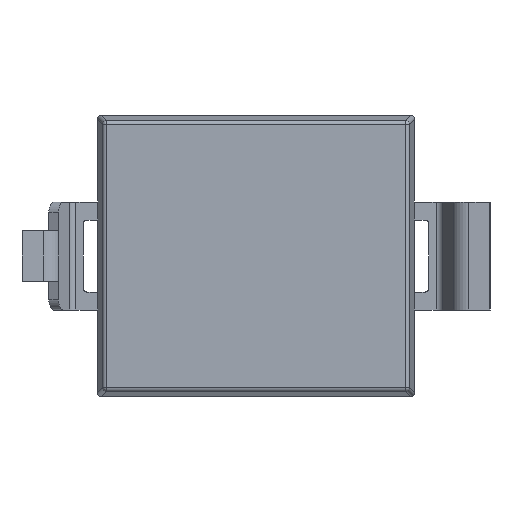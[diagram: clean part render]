
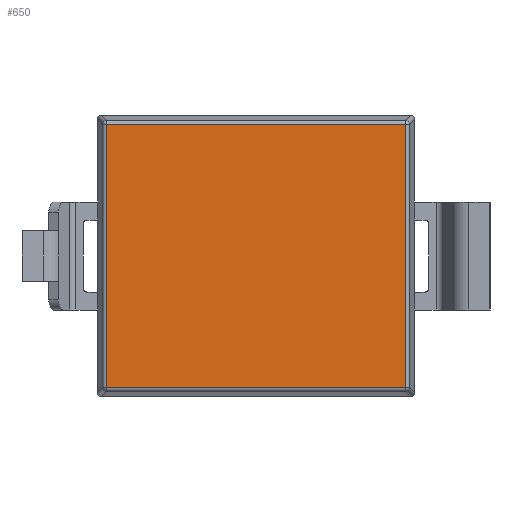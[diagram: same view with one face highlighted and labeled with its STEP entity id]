
A CAD part, front view. The second image highlights one B-rep face of the part: STEP entity #650.
In plain terms, the highlighted planar face has unit normal (0, -1, 0).
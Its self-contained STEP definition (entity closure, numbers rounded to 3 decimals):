
#121 = PLANE ( 'NONE',  #826 ) ;
#129 = DIRECTION ( 'NONE',  ( 0., 0., -1. ) ) ;
#245 = CARTESIAN_POINT ( 'NONE',  ( -2.08, 0.05, -1.83 ) ) ;
#300 = VERTEX_POINT ( 'NONE', #3200 ) ;
#397 = VECTOR ( 'NONE', #1256, 1000. ) ;
#414 = DIRECTION ( 'NONE',  ( 0., 1., 0. ) ) ;
#450 = EDGE_CURVE ( 'NONE', #1911, #2152, #2782, .T. ) ;
#459 = DIRECTION ( 'NONE',  ( 1., 0., 0. ) ) ;
#571 = EDGE_LOOP ( 'NONE', ( #1691, #2917, #1906, #2699 ) ) ;
#650 = ADVANCED_FACE ( 'NONE', ( #1565 ), #121, .F. ) ;
#652 = VECTOR ( 'NONE', #459, 1000. ) ;
#826 = AXIS2_PLACEMENT_3D ( 'NONE', #1194, #414, #1941 ) ;
#994 = VECTOR ( 'NONE', #1547, 1000. ) ;
#1019 = CARTESIAN_POINT ( 'NONE',  ( 2.122, 0.05, -1.83 ) ) ;
#1118 = LINE ( 'NONE', #1155, #2900 ) ;
#1155 = CARTESIAN_POINT ( 'NONE',  ( -2.08, 0.05, -1.872 ) ) ;
#1194 = CARTESIAN_POINT ( 'NONE',  ( 0., 0.05, 0. ) ) ;
#1256 = DIRECTION ( 'NONE',  ( 0., 0., 1. ) ) ;
#1274 = EDGE_CURVE ( 'NONE', #300, #1911, #3218, .T. ) ;
#1403 = VERTEX_POINT ( 'NONE', #245 ) ;
#1547 = DIRECTION ( 'NONE',  ( -1., 0., 0. ) ) ;
#1565 = FACE_OUTER_BOUND ( 'NONE', #571, .T. ) ;
#1627 = CARTESIAN_POINT ( 'NONE',  ( -2.08, 0.05, 1.83 ) ) ;
#1691 = ORIENTED_EDGE ( 'NONE', *, *, #1274, .T. ) ;
#1816 = EDGE_CURVE ( 'NONE', #1403, #300, #2538, .T. ) ;
#1906 = ORIENTED_EDGE ( 'NONE', *, *, #2690, .T. ) ;
#1911 = VERTEX_POINT ( 'NONE', #2807 ) ;
#1941 = DIRECTION ( 'NONE',  ( 0., 0., 1. ) ) ;
#2152 = VERTEX_POINT ( 'NONE', #1627 ) ;
#2261 = CARTESIAN_POINT ( 'NONE',  ( 2.08, 0.05, 1.872 ) ) ;
#2515 = CARTESIAN_POINT ( 'NONE',  ( -2.122, 0.05, 1.83 ) ) ;
#2538 = LINE ( 'NONE', #1019, #652 ) ;
#2690 = EDGE_CURVE ( 'NONE', #2152, #1403, #1118, .T. ) ;
#2699 = ORIENTED_EDGE ( 'NONE', *, *, #1816, .T. ) ;
#2782 = LINE ( 'NONE', #2515, #994 ) ;
#2807 = CARTESIAN_POINT ( 'NONE',  ( 2.08, 0.05, 1.83 ) ) ;
#2900 = VECTOR ( 'NONE', #129, 1000. ) ;
#2917 = ORIENTED_EDGE ( 'NONE', *, *, #450, .T. ) ;
#3200 = CARTESIAN_POINT ( 'NONE',  ( 2.08, 0.05, -1.83 ) ) ;
#3218 = LINE ( 'NONE', #2261, #397 ) ;
